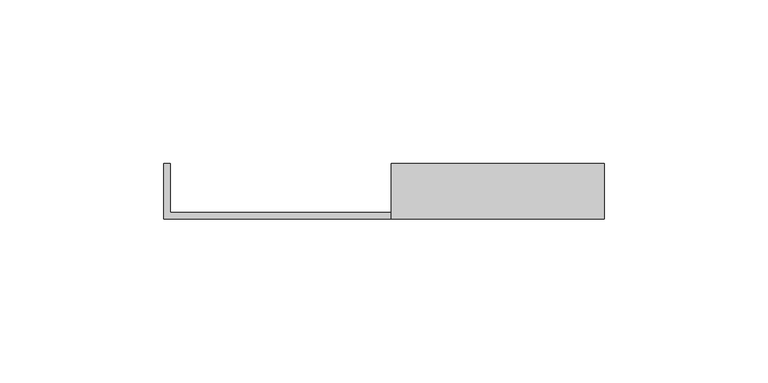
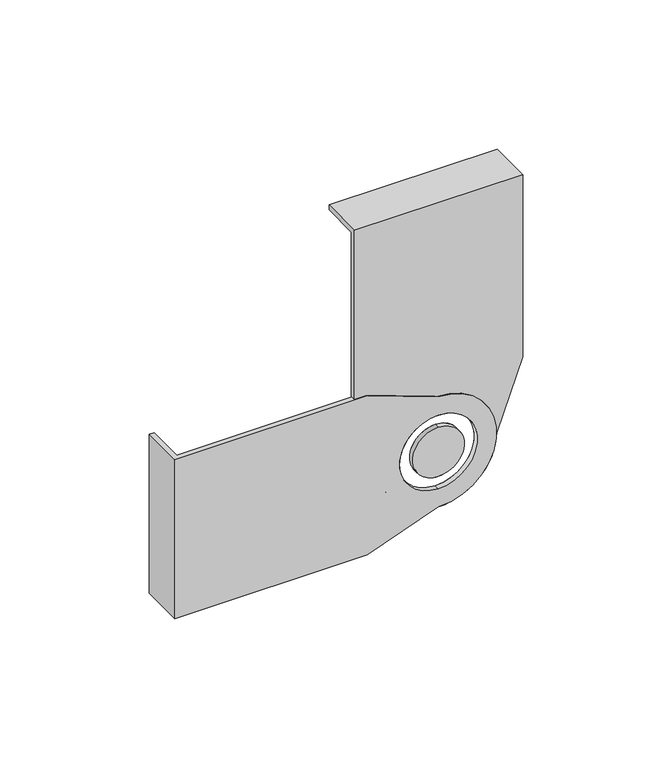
"""IFC4 building model written with IfcOpenShell, lengths in millimetres: cable carrier fitting geometry, BAKS_LD_TEE_Articulated connector attachable_LDD : LDDC_H45."""

from ifc_helpers import new_model, si_unit, frame, origin, place, context, project, spatial, polyline, circle_curve, source, transform, mapped, element, save
from ifc_brep_helpers import plane_surface, cylinder_surface, revolved_surface, advanced_brep


def cable_carrier_fitting_671e1b7f(model_context):
    return source(origin(), model_context, "Body", "AdvancedBrep", [
        advanced_brep(
        [(-27.5, -2.0, -32.5), (0.0, -2.0, -22.5), (0.0, -2.0, 22.5), (-27.5, -2.0, 32.5), (-102.0, -2.0, 32.5), (-102.0, -2.0, -32.5), (0.0, -2.0, 15.0), (0.0, -2.0, -15.0), (-100.0, 0.0, 32.5), (-27.5, 0.0, 32.5), (0.0, 0.0, 22.5), (0.0, 0.0, -22.5), (-27.5, 0.0, -32.5), (-100.0, 0.0, -32.5), (0.0, 0.0, -15.0), (0.0, 0.0, 15.0), (-102.0, 15.0, -32.5), (-100.0, 15.0, -32.5), (-100.0, 15.0, 32.5), (-102.0, 15.0, 32.5)],
        [
            (0, 1),
            (1, 2, circle_curve(frame((0.0, -2.0, 0.0), z_axis=(0.0, -1.0, 0.0), x_axis=(0.0, 0.0, 1.0)), 22.5)),
            (2, 3),
            (3, 4),
            (4, 5),
            (5, 0),
            (6, 7, circle_curve(frame((0.0, -2.0, 0.0), z_axis=(0.0, 1.0, 0.0), x_axis=(0.0, 0.0, 1.0)), 15.0)),
            (7, 6, circle_curve(frame((0.0, -2.0, 0.0), z_axis=(0.0, 1.0, 0.0), x_axis=(0.0, 0.0, 1.0)), 15.0)),
            (8, 9),
            (9, 10),
            (10, 11, circle_curve(frame((0.0, 0.0, 0.0), z_axis=(0.0, 1.0, 0.0), x_axis=(0.0, 0.0, 1.0)), 22.5)),
            (11, 12),
            (12, 13),
            (13, 8),
            (14, 15, circle_curve(frame((0.0, 0.0, 0.0), z_axis=(0.0, -1.0, 0.0), x_axis=(0.0, 0.0, 1.0)), 15.0)),
            (15, 14, circle_curve(frame((0.0, 0.0, 0.0), z_axis=(0.0, -1.0, 0.0), x_axis=(0.0, 0.0, 1.0)), 15.0)),
            (5, 16),
            (16, 17),
            (17, 13),
            (12, 0),
            (11, 1),
            (10, 2),
            (9, 3),
            (8, 18),
            (18, 19),
            (19, 4),
            (6, 15),
            (14, 7),
            (17, 18),
            (19, 16),
        ],
        [
            plane_surface(frame((-100.0, -2.0, -32.5), z_axis=(0.0, -1.0, 0.0), x_axis=(0.0, 0.0, -1.0))),
            plane_surface(frame((-100.0, 0.0, -32.5), z_axis=(0.0, 1.0, 0.0), x_axis=(0.0, 0.0, 1.0))),
            plane_surface(frame((-100.0, -2.0, -32.5), z_axis=(0.0, 0.0, -1.0), x_axis=(0.0, 1.0, 0.0))),
            plane_surface(frame((-27.5, -2.0, -32.5), z_axis=(0.34174306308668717, 0.0, -0.9397934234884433), x_axis=(0.0, 1.0, 0.0))),
            cylinder_surface(frame((0.0, 0.0, 0.0), z_axis=(0.0, -1.0, 0.0), x_axis=(0.0, 0.0, 1.0)), 22.5),
            plane_surface(frame((0.0, -2.0, 22.5), z_axis=(0.3417430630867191, 0.0, 0.9397934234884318), x_axis=(0.0, 1.0, 0.0))),
            plane_surface(frame((-27.5, -2.0, 32.5), z_axis=(0.0, 0.0, 1.0), x_axis=(0.0, 1.0, 0.0))),
            revolved_surface(polyline([(0.0, -2.0, 15.0), (0.0, 0.0, 15.0)]), (0.0, 0.0, 0.0), (0.0, -1.0, 0.0)),
            plane_surface(frame((-100.0, -2.0, -32.5), z_axis=(1.0, 0.0, 0.0), x_axis=(0.0, 0.0, -1.0))),
            plane_surface(frame((-102.0, -2.0, -32.5), z_axis=(-1.0, 0.0, 0.0), x_axis=(0.0, 0.0, 1.0))),
            plane_surface(frame((-100.0, 15.0, -32.5), z_axis=(0.0, 1.0, 0.0), x_axis=(-1.0, 0.0, 0.0))),
        ],
        [
            (0, [[1, 2, 3, 4, 5, 6], [7, 8]]),
            (1, [[9, 10, 11, 12, 13, 14], [15, 16]]),
            (2, [[-6, 17, 18, 19, -13, 20]]),
            (3, [[-1, -20, -12, 21]]),
            (4, [[-2, -21, -11, 22]]),
            (5, [[-3, -22, -10, 23]]),
            (6, [[-4, -23, -9, 24, 25, 26]]),
            (7, [[27, -15, 28, -7]]),
            (7, [[-27, -8, -28, -16]]),
            (8, [[29, -24, -14, -19]]),
            (9, [[-26, 30, -17, -5]]),
            (10, [[-29, -18, -30, -25]]),
        ],
    ),
        advanced_brep(
        [(0.0, -2.0, 10.0), (0.0, -2.0, -10.0), (0.0, 0.0, -10.0), (0.0, 0.0, 10.0)],
        [
            (0, 1, circle_curve(frame((0.0, -2.0, 0.0), z_axis=(0.0, -1.0, 0.0), x_axis=(0.0, 0.0, 1.0)), 10.0)),
            (1, 0, circle_curve(frame((0.0, -2.0, 0.0), z_axis=(0.0, -1.0, 0.0), x_axis=(0.0, 0.0, 1.0)), 10.0)),
            (2, 3, circle_curve(frame((0.0, 0.0, 0.0), z_axis=(0.0, 1.0, 0.0), x_axis=(0.0, 0.0, 1.0)), 10.0)),
            (3, 2, circle_curve(frame((0.0, 0.0, 0.0), z_axis=(0.0, 1.0, 0.0), x_axis=(0.0, 0.0, 1.0)), 10.0)),
            (0, 3),
            (2, 1),
        ],
        [
            plane_surface(frame((-100.0, -2.0, -32.5), z_axis=(0.0, -1.0, 0.0), x_axis=(0.0, 0.0, -1.0))),
            plane_surface(frame((-100.0, 0.0, -32.5), z_axis=(0.0, 1.0, 0.0), x_axis=(0.0, 0.0, 1.0))),
            cylinder_surface(frame((0.0, 0.0, 0.0), z_axis=(0.0, 1.0, 0.0), x_axis=(0.0, 0.0, 1.0)), 10.0),
        ],
        [
            (0, [[1, 2]]),
            (1, [[3, 4]]),
            (2, [[5, -3, 6, -1]]),
            (2, [[-5, -2, -6, -4]]),
        ],
    ),
        advanced_brep(
        [(-32.5, -2.0, 27.5), (-22.5, -2.0, 0.0), (22.5, -2.0, 0.0), (32.5, -2.0, 27.5), (32.5, -2.0, 102.0), (-32.5, -2.0, 102.0), (15.0, -2.0, 0.0), (-15.0, -2.0, 0.0), (32.5, 0.0, 100.0), (32.5, 0.0, 27.5), (22.5, 0.0, 0.0), (-22.5, 0.0, 0.0), (-32.5, 0.0, 27.5), (-32.5, 0.0, 100.0), (-15.0, 0.0, 0.0), (15.0, 0.0, 0.0), (-32.5, 15.0, 102.0), (-32.5, 15.0, 100.0), (32.5, 15.0, 100.0), (32.5, 15.0, 102.0)],
        [
            (0, 1),
            (1, 2, circle_curve(frame((0.0, -2.0, 0.0), z_axis=(0.0, -1.0, 0.0), x_axis=(1.0, 0.0, 0.0)), 22.5)),
            (2, 3),
            (3, 4),
            (4, 5),
            (5, 0),
            (6, 7, circle_curve(frame((0.0, -2.0, 0.0), z_axis=(0.0, 1.0, 0.0), x_axis=(1.0, 0.0, 0.0)), 15.0)),
            (7, 6, circle_curve(frame((0.0, -2.0, 0.0), z_axis=(0.0, 1.0, 0.0), x_axis=(1.0, 0.0, 0.0)), 15.0)),
            (8, 9),
            (9, 10),
            (10, 11, circle_curve(frame((0.0, 0.0, 0.0), z_axis=(0.0, 1.0, 0.0), x_axis=(1.0, 0.0, 0.0)), 22.5)),
            (11, 12),
            (12, 13),
            (13, 8),
            (14, 15, circle_curve(frame((0.0, 0.0, 0.0), z_axis=(0.0, -1.0, 0.0), x_axis=(1.0, 0.0, 0.0)), 15.0)),
            (15, 14, circle_curve(frame((0.0, 0.0, 0.0), z_axis=(0.0, -1.0, 0.0), x_axis=(1.0, 0.0, 0.0)), 15.0)),
            (5, 16),
            (16, 17),
            (17, 13),
            (12, 0),
            (11, 1),
            (10, 2),
            (9, 3),
            (8, 18),
            (18, 19),
            (19, 4),
            (6, 15),
            (14, 7),
            (17, 18),
            (19, 16),
        ],
        [
            plane_surface(frame((-32.5, -2.0, 100.0), z_axis=(0.0, -1.0, 0.0), x_axis=(-1.0, 0.0, 0.0))),
            plane_surface(frame((-32.5, 0.0, 100.0), z_axis=(0.0, 1.0, 0.0), x_axis=(1.0, 0.0, 0.0))),
            plane_surface(frame((-32.5, -2.0, 100.0), z_axis=(-1.0, 0.0, 0.0), x_axis=(0.0, 1.0, 0.0))),
            plane_surface(frame((-32.5, -2.0, 27.5), z_axis=(-0.9397934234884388, 0.0, -0.3417430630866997), x_axis=(0.0, 1.0, 0.0))),
            cylinder_surface(frame((0.0, 0.0, 0.0), z_axis=(0.0, -1.0, 0.0), x_axis=(1.0, 0.0, 0.0)), 22.5),
            plane_surface(frame((22.5, -2.0, 0.0), z_axis=(0.9397934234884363, 0.0, -0.34174306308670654), x_axis=(0.0, 1.0, 0.0))),
            plane_surface(frame((32.5, -2.0, 27.5), z_axis=(1.0, 0.0, 0.0), x_axis=(0.0, 1.0, 0.0))),
            revolved_surface(polyline([(15.0, -2.0, 0.0), (15.0, 0.0, 0.0)]), (0.0, 0.0, 0.0), (0.0, -1.0, 0.0)),
            plane_surface(frame((-32.5, -2.0, 100.0), z_axis=(0.0, 0.0, -1.0), x_axis=(-1.0, 0.0, 0.0))),
            plane_surface(frame((-32.5, -2.0, 102.0), z_axis=(0.0, 0.0, 1.0), x_axis=(1.0, 0.0, 0.0))),
            plane_surface(frame((-32.5, 15.0, 100.0), z_axis=(0.0, 1.0, 0.0), x_axis=(0.0, 0.0, 1.0))),
        ],
        [
            (0, [[1, 2, 3, 4, 5, 6], [7, 8]]),
            (1, [[9, 10, 11, 12, 13, 14], [15, 16]]),
            (2, [[-6, 17, 18, 19, -13, 20]]),
            (3, [[-1, -20, -12, 21]]),
            (4, [[-2, -21, -11, 22]]),
            (5, [[-3, -22, -10, 23]]),
            (6, [[-4, -23, -9, 24, 25, 26]]),
            (7, [[27, -15, 28, -7]]),
            (7, [[-27, -8, -28, -16]]),
            (8, [[29, -24, -14, -19]]),
            (9, [[-26, 30, -17, -5]]),
            (10, [[-29, -18, -30, -25]]),
        ],
    ),
        advanced_brep(
        [(10.0, -2.0, 0.0), (-10.0, -2.0, 0.0), (-10.0, 0.0, 0.0), (10.0, 0.0, 0.0)],
        [
            (0, 1, circle_curve(frame((0.0, -2.0, 0.0), z_axis=(0.0, -1.0, 0.0), x_axis=(1.0, 0.0, 0.0)), 10.0)),
            (1, 0, circle_curve(frame((0.0, -2.0, 0.0), z_axis=(0.0, -1.0, 0.0), x_axis=(1.0, 0.0, 0.0)), 10.0)),
            (2, 3, circle_curve(frame((0.0, 0.0, 0.0), z_axis=(0.0, 1.0, 0.0), x_axis=(1.0, 0.0, 0.0)), 10.0)),
            (3, 2, circle_curve(frame((0.0, 0.0, 0.0), z_axis=(0.0, 1.0, 0.0), x_axis=(1.0, 0.0, 0.0)), 10.0)),
            (0, 3),
            (2, 1),
        ],
        [
            plane_surface(frame((-32.5, -2.0, 100.0), z_axis=(0.0, -1.0, 0.0), x_axis=(-1.0, 0.0, 0.0))),
            plane_surface(frame((-32.5, 0.0, 100.0), z_axis=(0.0, 1.0, 0.0), x_axis=(1.0, 0.0, 0.0))),
            cylinder_surface(frame((0.0, 0.0, 0.0), z_axis=(0.0, 1.0, 0.0), x_axis=(1.0, 0.0, 0.0)), 10.0),
        ],
        [
            (0, [[1, 2]]),
            (1, [[3, 4]]),
            (2, [[5, -3, 6, -1]]),
            (2, [[-5, -2, -6, -4]]),
        ],
    ),
    ])


if __name__ == "__main__":
    model = new_model("IFC4")
    model_context = context("Model", 3, world=origin())
    ifc_project = project(units=[si_unit("LENGTHUNIT", "METRE", prefix="MILLI")], contexts=[model_context])
    site = spatial("IfcSite", under=ifc_project)
    building = spatial("IfcBuilding", under=site)
    placement = place(None, origin())
    cable_carrier_fitting_shape = cable_carrier_fitting_671e1b7f(model_context)
    element("IfcCableCarrierFitting", 1, ObjectType="BAKS_LD_TEE_Articulated connector attachable_LDD : LDDC_H45", at=placement, inside=building, context=model_context, shape_type="MappedRepresentation", body=[
        mapped(cable_carrier_fitting_shape, transform((0.0, 0.0, 0.0), x_axis=(1.0, 0.0, 0.0), y_axis=(0.0, 1.0, 0.0), z_axis=(0.0, 0.0, 1.0))),
    ])
    save(model, "model.ifc")
